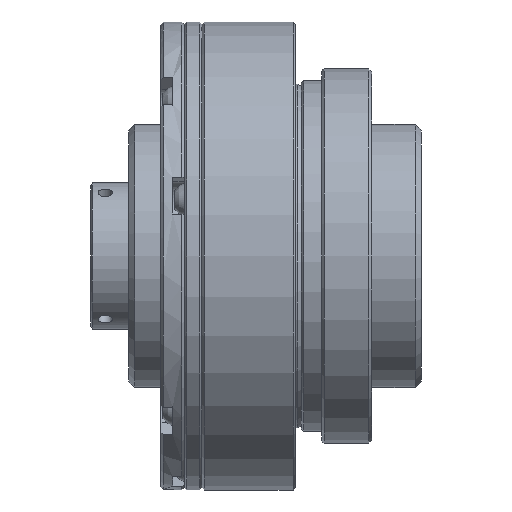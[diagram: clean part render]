
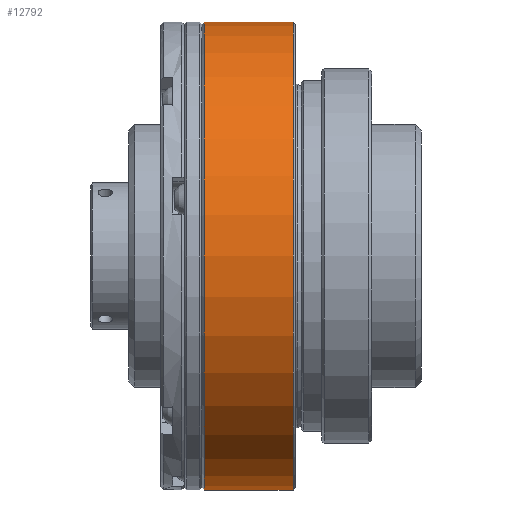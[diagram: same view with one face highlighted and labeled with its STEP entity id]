
A CAD part, front view. The second image highlights one B-rep face of the part: STEP entity #12792.
In plain terms, the highlighted cylindrical face has radius 40 mm (diameter 80 mm), a full revolution.
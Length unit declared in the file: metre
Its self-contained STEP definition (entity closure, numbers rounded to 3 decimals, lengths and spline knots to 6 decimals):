
#1510 = DIRECTION ( 'NONE',  ( -1., 0., 0. ) ) ;
#4760 = EDGE_LOOP ( 'NONE', ( #22901 ) ) ;
#4776 = FACE_OUTER_BOUND ( 'NONE', #4760, .T. ) ;
#5844 = DIRECTION ( 'NONE',  ( 0., 0., 1. ) ) ;
#8665 = DIRECTION ( 'NONE',  ( -1., 0., 0. ) ) ;
#8853 = EDGE_CURVE ( 'NONE', #45695, #45695, #32910, .T. ) ;
#12306 = CYLINDRICAL_SURFACE ( 'NONE', #35472, 0.04 ) ;
#12792 = ADVANCED_FACE ( 'NONE', ( #15218, #4776 ), #12306, .T. ) ;
#15218 = FACE_OUTER_BOUND ( 'NONE', #26641, .T. ) ;
#15535 = ORIENTED_EDGE ( 'NONE', *, *, #40565, .T. ) ;
#18225 = AXIS2_PLACEMENT_3D ( 'NONE', #33768, #41039, #26525 ) ;
#22091 = CIRCLE ( 'NONE', #28303, 0.04 ) ;
#22901 = ORIENTED_EDGE ( 'NONE', *, *, #8853, .T. ) ;
#26525 = DIRECTION ( 'NONE',  ( 0., 0., 1. ) ) ;
#26641 = EDGE_LOOP ( 'NONE', ( #15535 ) ) ;
#27063 = CARTESIAN_POINT ( 'NONE',  ( 0.019, 0., 0. ) ) ;
#27083 = CARTESIAN_POINT ( 'NONE',  ( 0.0194, 0., 0.04 ) ) ;
#28303 = AXIS2_PLACEMENT_3D ( 'NONE', #38534, #1510, #5844 ) ;
#31070 = CARTESIAN_POINT ( 'NONE',  ( 0.0346, 0., 0.04 ) ) ;
#32910 = CIRCLE ( 'NONE', #18225, 0.04 ) ;
#33768 = CARTESIAN_POINT ( 'NONE',  ( 0.0194, 0., 0. ) ) ;
#34452 = VERTEX_POINT ( 'NONE', #31070 ) ;
#35472 = AXIS2_PLACEMENT_3D ( 'NONE', #27063, #8665, #38165 ) ;
#38165 = DIRECTION ( 'NONE',  ( 0., 0., 1. ) ) ;
#38534 = CARTESIAN_POINT ( 'NONE',  ( 0.0346, 0., 0. ) ) ;
#40565 = EDGE_CURVE ( 'NONE', #34452, #34452, #22091, .T. ) ;
#41039 = DIRECTION ( 'NONE',  ( 1., 0., 0. ) ) ;
#45695 = VERTEX_POINT ( 'NONE', #27083 ) ;
